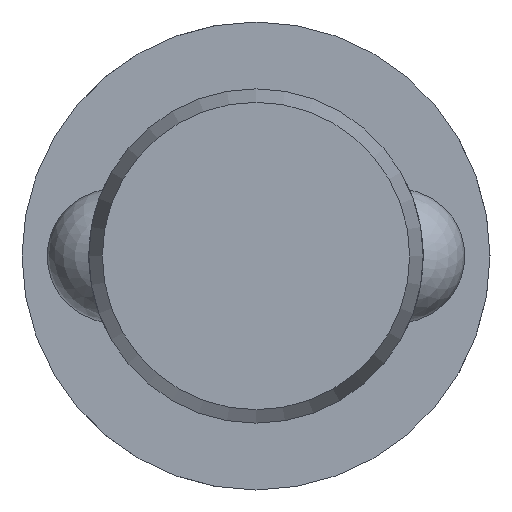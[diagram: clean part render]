
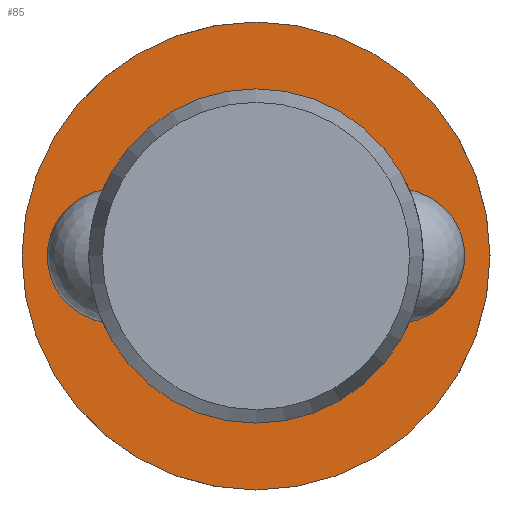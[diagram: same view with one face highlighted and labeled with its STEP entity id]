
A CAD part, left-side view. The second image highlights one B-rep face of the part: STEP entity #85.
In plain terms, the highlighted planar face has unit normal (-1, 0, 0).
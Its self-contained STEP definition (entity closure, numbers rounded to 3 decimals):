
#85 = ADVANCED_FACE( '', ( #131, #132 ), #133, .F. );
#131 = FACE_OUTER_BOUND( '', #204, .T. );
#132 = FACE_BOUND( '', #205, .T. );
#133 = PLANE( '', #206 );
#204 = EDGE_LOOP( '', ( #322 ) );
#205 = EDGE_LOOP( '', ( #323 ) );
#206 = AXIS2_PLACEMENT_3D( '', #324, #325, #326 );
#322 = ORIENTED_EDGE( '', *, *, #470, .F. );
#323 = ORIENTED_EDGE( '', *, *, #467, .T. );
#324 = CARTESIAN_POINT( '', ( 110.5, 10., 0. ) );
#325 = DIRECTION( '', ( 1., 0., 0. ) );
#326 = DIRECTION( '', ( 0., 0., -1. ) );
#467 = EDGE_CURVE( '', #541, #541, #542, .T. );
#470 = EDGE_CURVE( '', #547, #547, #548, .T. );
#541 = VERTEX_POINT( '', #777 );
#542 = CIRCLE( '', #778, 10. );
#547 = VERTEX_POINT( '', #909 );
#548 = CIRCLE( '', #910, 14. );
#777 = CARTESIAN_POINT( '', ( 110.5, 0., -10. ) );
#778 = AXIS2_PLACEMENT_3D( '', #989, #990, #991 );
#909 = CARTESIAN_POINT( '', ( 110.5, 0., -14. ) );
#910 = AXIS2_PLACEMENT_3D( '', #992, #993, #994 );
#989 = CARTESIAN_POINT( '', ( 110.5, 0., 0. ) );
#990 = DIRECTION( '', ( 1., 0., 0. ) );
#991 = DIRECTION( '', ( 0., 0., -1. ) );
#992 = CARTESIAN_POINT( '', ( 110.5, 0., 0. ) );
#993 = DIRECTION( '', ( 1., 0., 0. ) );
#994 = DIRECTION( '', ( 0., 0., -1. ) );
